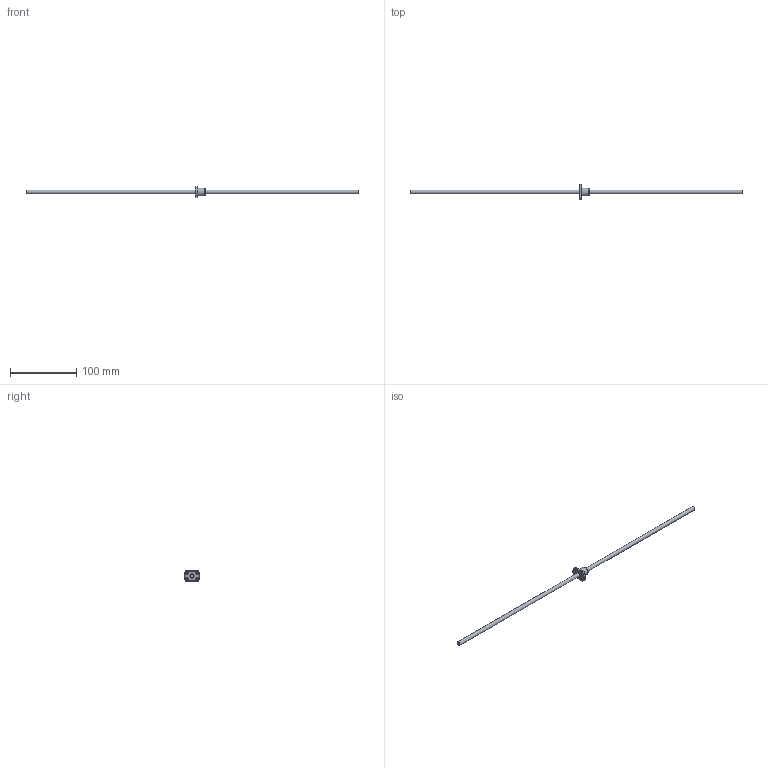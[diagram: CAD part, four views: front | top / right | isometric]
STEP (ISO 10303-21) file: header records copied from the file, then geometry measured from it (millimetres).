
FILE_DESCRIPTION (( 'STEP AP203' ), '1' );
FILE_NAME ('SFK00601.step', '2024-05-30T08:10:41', ( '' ), ( '' ), 'SwSTEP 2.0', 'SolidWorks 2022', '' );
FILE_SCHEMA (( 'CONFIG_CONTROL_DESIGN' ));
Length unit declared in the file: millimetre
Products named in the file (1): SFK00601
Bounding box: 500 x 23.92 x 16 mm (x, y, z)
Volume: 16038.2 mm3; surface area: 11116.3 mm2
Topology: 2 solids, 2 shells, 33 faces, 78 edges, 50 vertices
Faces by surface type: plane 11, cylinder 9, cone 8, torus 5
Full cylindrical faces by diameter (mm): 3.4 x4, 6 x1, 6.4 x1, 12 x1
Entity records: 935 total; most frequent: CARTESIAN_POINT 204, DIRECTION 142, ORIENTED_EDGE 102, AXIS2_PLACEMENT_3D 65, EDGE_LOOP 60, EDGE_CURVE 51, FACE_OUTER_BOUND 41, VERTEX_POINT 39
